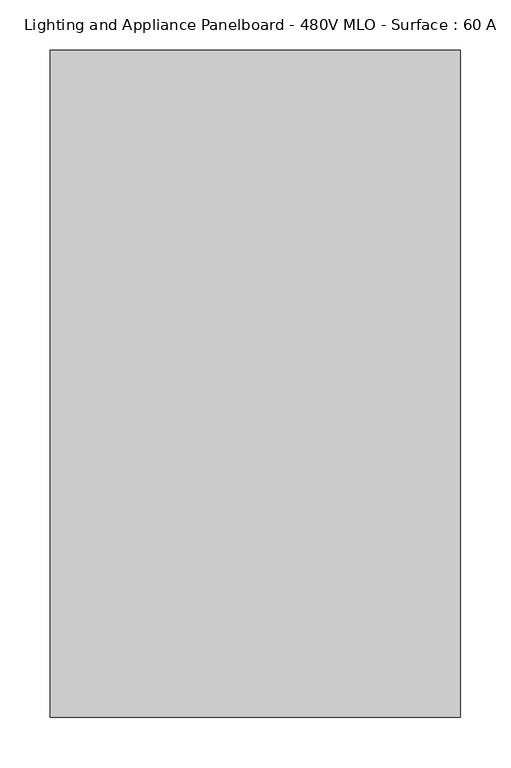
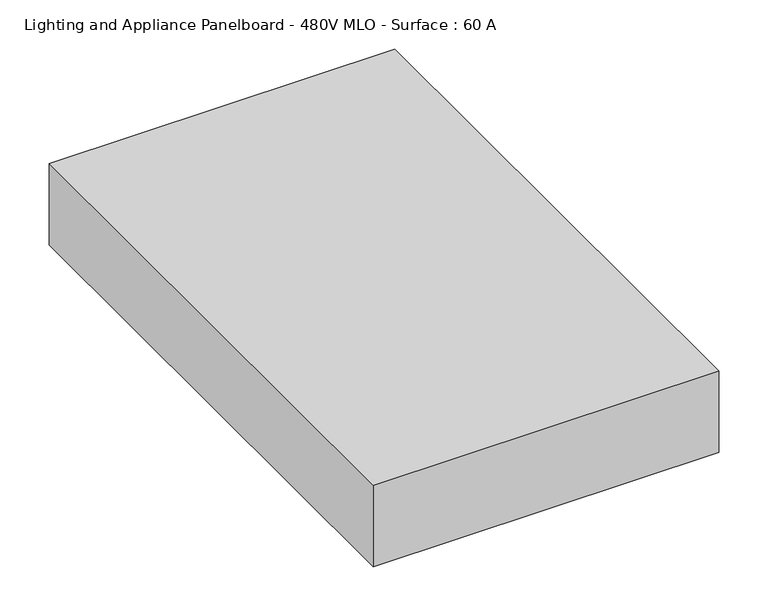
"""IFC4 building model written with IfcOpenShell, lengths in millimetres: proxy geometry, Lighting and Appliance Panelboard - 480V MLO - Surface : 60 A."""

from ifc_helpers import new_model, si_unit, origin, origin_with_axes, place, context, project, spatial, polyline, outline, extrude, source, transform, mapped, element, save


def lighting_and_appliance_panelboard_480v_mlo_surface_60_a_df9055c8(model_context):
    return source(origin(), model_context, "Body", "SweptSolid", [
        extrude(outline(polyline([(203.2, 704.0725953), (203.2, 43.6725953), (-203.2, 43.6725953), (-203.2, 704.0725953), (203.2, 704.0725953)])), origin_with_axes(), (0.0, 0.0, 1.0), 101.6),
    ])


if __name__ == "__main__":
    model = new_model("IFC4")
    model_context = context("Model", 3, world=origin())
    ifc_project = project(units=[si_unit("LENGTHUNIT", "METRE", prefix="MILLI")], contexts=[model_context])
    site = spatial("IfcSite", under=ifc_project)
    building = spatial("IfcBuilding", under=site)
    placement = place(None, origin())
    lighting_and_appliance_panelboard_480v_mlo_surface_60_a_shape = lighting_and_appliance_panelboard_480v_mlo_surface_60_a_df9055c8(model_context)
    element("IfcBuildingElementProxy", 1, Name="Lighting and Appliance Panelboard - 480V MLO - Surface : 60 A", ObjectType="Lighting and Appliance Panelboard - 480V MLO - Surface : 60 A", at=placement, inside=building, context=model_context, shape_type="MappedRepresentation", body=[
        mapped(lighting_and_appliance_panelboard_480v_mlo_surface_60_a_shape, transform((0.0, 0.0, 0.0), x_axis=(1.0, 0.0, 0.0), y_axis=(0.0, 1.0, 0.0), z_axis=(0.0, 0.0, 1.0))),
    ])
    save(model, "model.ifc")
